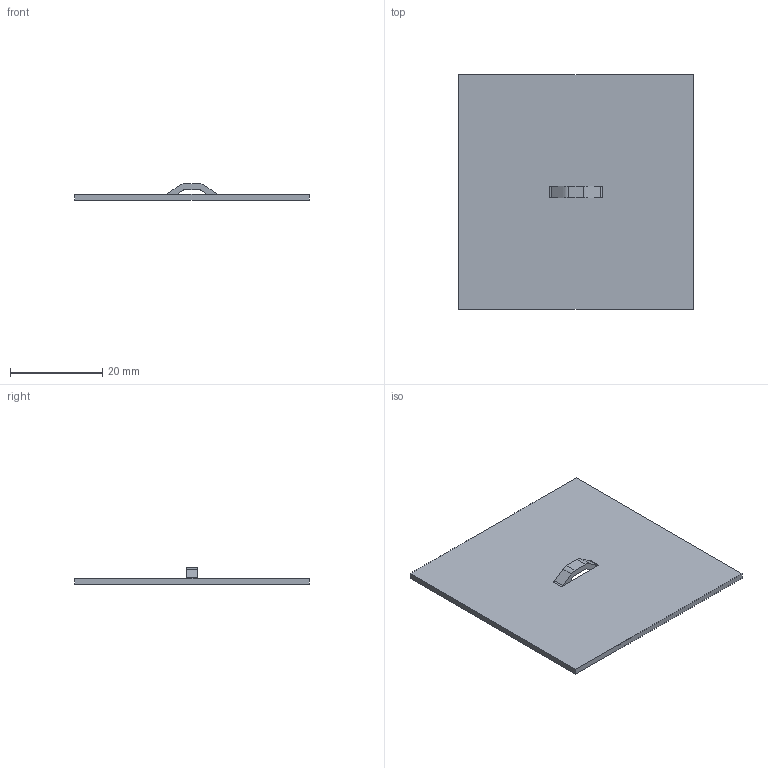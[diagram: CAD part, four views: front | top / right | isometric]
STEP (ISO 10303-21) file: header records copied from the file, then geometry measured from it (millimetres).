
FILE_DESCRIPTION((''),'1');
FILE_NAME('C:/Users/robertnolte/Desktop/WT#711647-10.stp','2012-03-28T00:39:00',(''),(''),'Spatial Interop R21 SP3','Kubotek KeyCreator 2011 V10.5.0 (24766)',' ');
FILE_SCHEMA(('CONFIG_CONTROL_DESIGN'));
Length unit declared in the file: inch
Products named in the file (1): 1
Bounding box: 50.8 x 50.8 x 3.56 mm (x, y, z)
Volume: 3281.7 mm3; surface area: 5472.2 mm2
Topology: 1 solids, 1 shells, 24 faces, 68 edges, 44 vertices
Faces by surface type: plane 16, cylinder 8
Entity records: 828 total; most frequent: CARTESIAN_POINT 137, ORIENTED_EDGE 136, DIRECTION 134, EDGE_CURVE 68, LINE 52, VECTOR 52, VERTEX_POINT 44, AXIS2_PLACEMENT_3D 41
